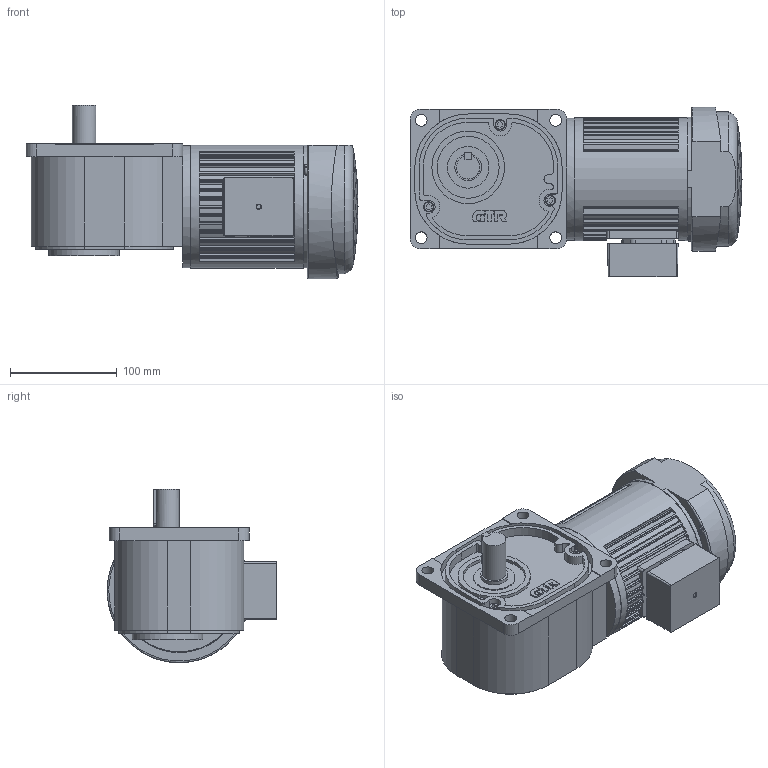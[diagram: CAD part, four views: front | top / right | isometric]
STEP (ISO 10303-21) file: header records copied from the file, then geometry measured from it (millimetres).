
FILE_DESCRIPTION( ( 'STEP AP203' ), ' ' );
FILE_NAME( 'p:/temp/worker_1/284_1908/app_90_12017041201593764202656260eae72_000000_00_00_000000/format_1/FF22L10N-IPB010NJN.stp', '2017-04-11T23:59:39', ( '' ), ( '' ), ' ', 'PARTsolutions', ' ' );
FILE_SCHEMA( ( 'CONFIG_CONTROL_DESIGN' ) );
Length unit declared in the file: millimetre
Products named in the file (7): FF22L10N-IPB010NJN; _FF22L; HI_T010; HI_010P; _Brake lead wire; _J-BOX010; _KEY 22
Assembly tree (6 placements, depth 2):
  FF22L10N-IPB010NJN
    _FF22L
    HI_T010
    HI_010P
    _Brake lead wire
    _J-BOX010
    _KEY 22
Bounding box: 311 x 158.99 x 162.5 mm (x, y, z)
Volume: 3293331.1 mm3; surface area: 269245.2 mm2
Topology: 6 solids, 6 shells, 701 faces, 1772 edges, 1199 vertices
Faces by surface type: cylinder 399, plane 286, torus 10, cone 5, sphere 1
Full cylindrical faces by diameter (mm): 2 x4, 5 x76, 9.5 x3, 11 x4, 12 x1, 22 x1, 25 x1, 39 x1, 58 x1, 66 x1, 68 x1, 114.5 x1, 115 x1
Entity records: 28856 total; most frequent: CARTESIAN_POINT 12416, DIRECTION 3420, ORIENTED_EDGE 3146, EDGE_CURVE 1573, AXIS2_PLACEMENT_3D 1298, VERTEX_POINT 1110, EDGE_LOOP 934, LINE 824
